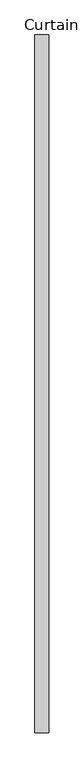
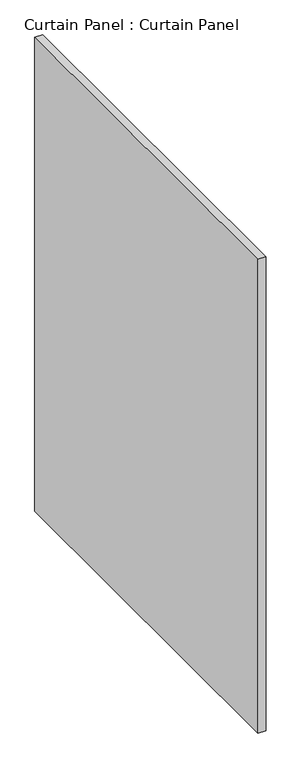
"""IFC4 building model written with IfcOpenShell, lengths in millimetres: plate geometry, Curtain Panel : Curtain Panel."""

from ifc_helpers import new_model, si_unit, frame, origin, place, context, project, spatial, polyline, outline, extrude, source, transform, mapped, element, save


def curtain_panel_curtain_panel_3e1a44bc(model_context):
    return source(origin(), model_context, "Body", "SweptSolid", [
        extrude(outline(polyline([(-28721.5971749, 7767.9994331), (-28721.5971749, 9044.3494331), (-28696.1971749, 9044.3494331), (-28696.1971749, 7767.9994331), (-28721.5971749, 7767.9994331)])), frame((0.0, 0.0, 2514.6), z_axis=(0.0, 0.0, 1.0), x_axis=(1.0, 0.0, 0.0)), (0.0, 0.0, 1.0), 1651.0),
    ])


if __name__ == "__main__":
    model = new_model("IFC4")
    model_context = context("Model", 3, world=origin())
    ifc_project = project(units=[si_unit("LENGTHUNIT", "METRE", prefix="MILLI")], contexts=[model_context])
    site = spatial("IfcSite", under=ifc_project)
    building = spatial("IfcBuilding", under=site)
    placement = place(None, origin())
    curtain_panel_curtain_panel_shape = curtain_panel_curtain_panel_3e1a44bc(model_context)
    element("IfcPlate", 1, ObjectType="Curtain Panel : Curtain Panel", at=placement, inside=building, context=model_context, shape_type="MappedRepresentation", body=[
        mapped(curtain_panel_curtain_panel_shape, transform((0.0, 0.0, 0.0), x_axis=(1.0, 0.0, 0.0), y_axis=(0.0, 1.0, 0.0), z_axis=(0.0, 0.0, 1.0))),
    ])
    save(model, "model.ifc")
